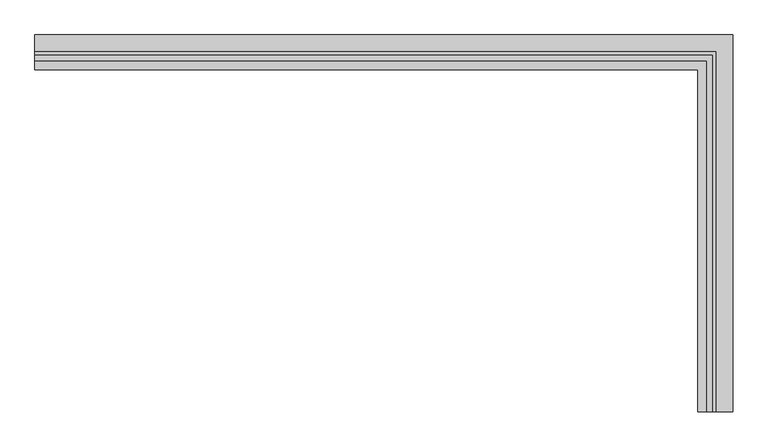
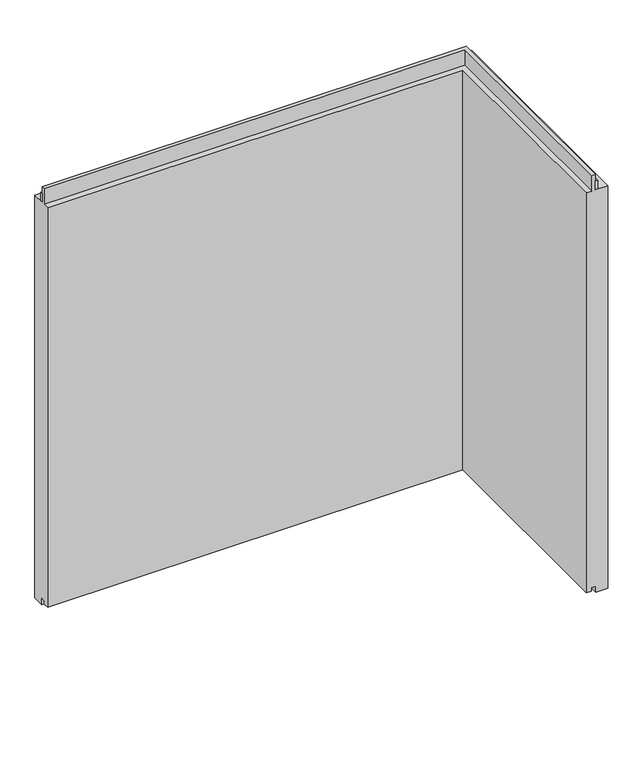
"""IFC4 building model written with IfcOpenShell, lengths in millimetres: plate geometry, Trimo_Qbiss Screen_L Corner Panel-HORIZONTAL : HR - B."""

from ifc_helpers import new_model, si_unit, frame, origin, place, context, project, spatial, polyline, outline, extrude, faceted_brep, source, transform, mapped, element, save


def plate_0ee140ac(model_context):
    return source(origin(), model_context, "Body", "SolidModel", [
        extrude(outline(polyline([(-443.75, 71.0), (-443.75, 76.0), (532.25, 76.0), (532.25, -440.0), (527.25, -440.0), (527.25, 71.0), (-443.75, 71.0)])), frame((0.0, 0.0, 975.5), z_axis=(0.0, 0.0, 1.0), x_axis=(1.0, 0.0, 0.0)), (0.0, 0.0, 1.0), 21.0),
        faceted_brep([(-443.75, 71.0, 974.5), (-443.75, 100.0, 974.5), (-443.75, 100.0, 0.0), (-443.75, 72.0, 0.0), (-443.75, 72.0, 15.5), (-443.75, 62.0, 15.5), (-443.75, 62.0, 7.0), (-443.75, 50.0, 7.0), (-443.75, 50.0, 974.5), (-443.75, 63.0, 974.5), (-443.75, 63.0, 1012.0), (-443.75, 71.0, 1012.0), (527.25, 71.0, 974.5), (527.25, -440.0, 974.5), (556.25, -440.0, 974.5), (556.25, 100.0, 974.5), (556.25, 100.0, 0.0), (556.25, -440.0, 0.0), (528.25, -440.0, 0.0), (528.25, 72.0, 0.0), (528.25, 72.0, 15.5), (528.25, -440.0, 15.5), (518.25, -440.0, 15.5), (518.25, 62.0, 15.5), (518.25, 62.0, 7.0), (518.25, -440.0, 7.0), (506.25, -440.0, 7.0), (506.25, 50.0, 7.0), (506.25, 50.0, 974.5), (506.25, -440.0, 974.5), (519.25, -440.0, 974.5), (519.25, 63.0, 974.5), (519.25, 63.0, 1012.0), (519.25, -440.0, 1012.0), (527.25, -440.0, 1012.0), (527.25, 71.0, 1012.0)], [[[0, 1, 2, 3, 4, 5, 6, 7, 8, 9, 10, 11]], [[1, 0, 12, 13, 14, 15]], [[2, 1, 15, 16]], [[3, 2, 16, 17, 18, 19]], [[4, 3, 19, 20]], [[5, 4, 20, 21, 22, 23]], [[6, 5, 23, 24]], [[7, 6, 24, 25, 26, 27]], [[8, 7, 27, 28]], [[9, 8, 28, 29, 30, 31]], [[10, 9, 31, 32]], [[11, 10, 32, 33, 34, 35]], [[0, 11, 35, 12]], [[13, 34, 33, 30, 29, 26, 25, 22, 21, 18, 17, 14]], [[16, 15, 14, 17]], [[20, 19, 18, 21]], [[24, 23, 22, 25]], [[28, 27, 26, 29]], [[32, 31, 30, 33]], [[12, 35, 34, 13]]]),
    ])


if __name__ == "__main__":
    model = new_model("IFC4")
    model_context = context("Model", 3, world=origin())
    ifc_project = project(units=[si_unit("LENGTHUNIT", "METRE", prefix="MILLI")], contexts=[model_context])
    site = spatial("IfcSite", under=ifc_project)
    building = spatial("IfcBuilding", under=site)
    placement = place(None, origin())
    plate_shape = plate_0ee140ac(model_context)
    element("IfcPlate", 1, ObjectType="Trimo_Qbiss Screen_L Corner Panel-HORIZONTAL : HR - B", at=placement, inside=building, context=model_context, shape_type="MappedRepresentation", body=[
        mapped(plate_shape, transform((0.0, 0.0, 0.0), x_axis=(1.0, 0.0, 0.0), y_axis=(0.0, 1.0, 0.0), z_axis=(0.0, 0.0, 1.0))),
    ])
    save(model, "model.ifc")
